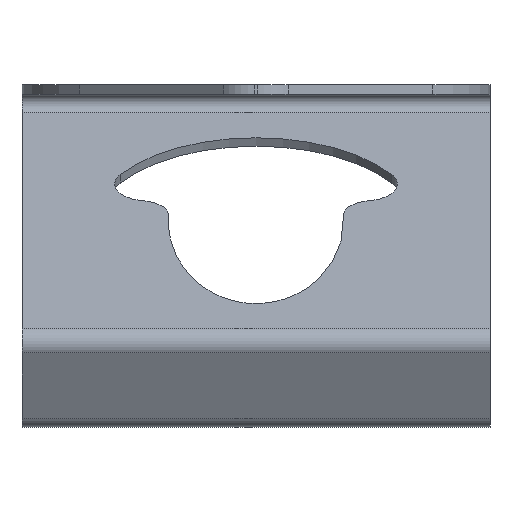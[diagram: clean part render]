
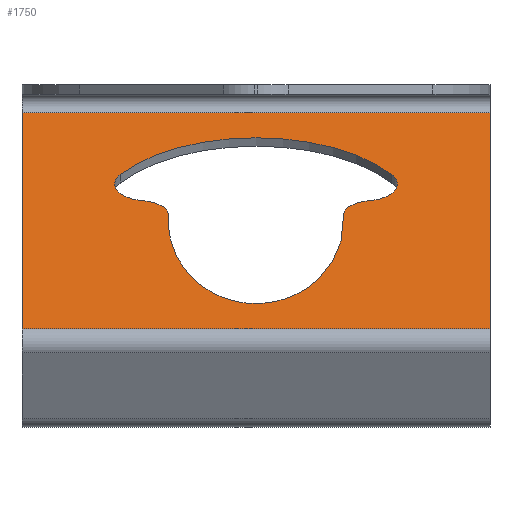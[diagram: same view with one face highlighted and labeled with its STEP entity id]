
A CAD part, front view. The second image highlights one B-rep face of the part: STEP entity #1750.
In plain terms, the highlighted planar face has unit normal (0, -0.5, 0.866).
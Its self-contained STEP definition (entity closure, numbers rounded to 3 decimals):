
#1 = VERTEX_POINT ( 'NONE', #1483 ) ;
#8 = DIRECTION ( 'NONE',  ( 0., 0.866, 0.5 ) ) ;
#15 = CARTESIAN_POINT ( 'NONE',  ( 0., 194.944, -14.33 ) ) ;
#23 = ORIENTED_EDGE ( 'NONE', *, *, #1196, .T. ) ;
#33 = ORIENTED_EDGE ( 'NONE', *, *, #1471, .T. ) ;
#37 = ORIENTED_EDGE ( 'NONE', *, *, #1839, .F. ) ;
#56 = LINE ( 'NONE', #324, #347 ) ;
#58 = DIRECTION ( 'NONE',  ( 0., -0.5, 0.866 ) ) ;
#62 = EDGE_CURVE ( 'NONE', #1920, #1487, #605, .T. ) ;
#65 = ORIENTED_EDGE ( 'NONE', *, *, #757, .F. ) ;
#74 = LINE ( 'NONE', #737, #551 ) ;
#83 = CIRCLE ( 'NONE', #1672, 83.107 ) ;
#158 = EDGE_LOOP ( 'NONE', ( #23, #37, #1687, #358 ) ) ;
#166 = VECTOR ( 'NONE', #303, 1000. ) ;
#247 = DIRECTION ( 'NONE',  ( 0., -0.5, 0.866 ) ) ;
#253 = DIRECTION ( 'NONE',  ( 0., -0.866, -0.5 ) ) ;
#267 = CARTESIAN_POINT ( 'NONE',  ( 147.623, 25.342, -112.25 ) ) ;
#268 = CARTESIAN_POINT ( 'NONE',  ( 0., 2.964, -125.17 ) ) ;
#291 = AXIS2_PLACEMENT_3D ( 'NONE', #910, #921, #8 ) ;
#298 = CARTESIAN_POINT ( 'NONE',  ( 120., 100.593, -68.804 ) ) ;
#303 = DIRECTION ( 'NONE',  ( -1., 0., 0. ) ) ;
#324 = CARTESIAN_POINT ( 'NONE',  ( 240., 2.964, -125.17 ) ) ;
#343 = CARTESIAN_POINT ( 'NONE',  ( 177.645, 116.588, -59.569 ) ) ;
#347 = VECTOR ( 'NONE', #1367, 1000. ) ;
#355 = ORIENTED_EDGE ( 'NONE', *, *, #1485, .T. ) ;
#358 = ORIENTED_EDGE ( 'NONE', *, *, #706, .T. ) ;
#430 = VERTEX_POINT ( 'NONE', #1881 ) ;
#433 = VERTEX_POINT ( 'NONE', #979 ) ;
#436 = EDGE_CURVE ( 'NONE', #1008, #900, #1501, .T. ) ;
#464 = CARTESIAN_POINT ( 'NONE',  ( 65., 131.569, -50.92 ) ) ;
#465 = LINE ( 'NONE', #15, #1885 ) ;
#551 = VECTOR ( 'NONE', #760, 1000. ) ;
#572 = CARTESIAN_POINT ( 'NONE',  ( 73.435, 58.231, -93.262 ) ) ;
#597 = EDGE_CURVE ( 'NONE', #1845, #743, #74, .T. ) ;
#603 = DIRECTION ( 'NONE',  ( 0., -0.866, -0.5 ) ) ;
#605 =( BOUNDED_CURVE ( )  B_SPLINE_CURVE ( 3, ( #880, #1776, #267, #741, #1469, #572, #1626 ),
 .UNSPECIFIED., .F., .T. ) 
 B_SPLINE_CURVE_WITH_KNOTS ( ( 4, 3, 4 ),
 ( 4.653, 6.283, 7.914 ),
 .UNSPECIFIED. ) 
 CURVE ( )  GEOMETRIC_REPRESENTATION_ITEM ( )  RATIONAL_B_SPLINE_CURVE ( ( 1., 0.79, 0.79, 1., 0.79, 0.79, 1. ) ) 
 REPRESENTATION_ITEM ( '' )  );
#609 = DIRECTION ( 'NONE',  ( 0., 0.866, 0.5 ) ) ;
#662 = CARTESIAN_POINT ( 'NONE',  ( 75.08, 103.337, -67.22 ) ) ;
#685 = CARTESIAN_POINT ( 'NONE',  ( 189.671, 139.831, -46.15 ) ) ;
#702 = DIRECTION ( 'NONE',  ( 0., 0.866, 0.5 ) ) ;
#706 = EDGE_CURVE ( 'NONE', #1845, #433, #862, .T. ) ;
#735 = FACE_OUTER_BOUND ( 'NONE', #158, .T. ) ;
#737 = CARTESIAN_POINT ( 'NONE',  ( 240., 194.944, -14.33 ) ) ;
#741 = CARTESIAN_POINT ( 'NONE',  ( 120., 25.342, -112.25 ) ) ;
#743 = VERTEX_POINT ( 'NONE', #1198 ) ;
#757 = EDGE_CURVE ( 'NONE', #1, #430, #1837, .T. ) ;
#760 = DIRECTION ( 'NONE',  ( 0., -0.866, -0.5 ) ) ;
#808 = CARTESIAN_POINT ( 'NONE',  ( 240., 194.944, -14.33 ) ) ;
#810 = DIRECTION ( 'NONE',  ( 0., 0.866, 0.5 ) ) ;
#839 = AXIS2_PLACEMENT_3D ( 'NONE', #1155, #1761, #253 ) ;
#845 = EDGE_LOOP ( 'NONE', ( #65, #1580, #1417, #355, #1232, #33 ) ) ;
#862 = LINE ( 'NONE', #1218, #166 ) ;
#880 = CARTESIAN_POINT ( 'NONE',  ( 164.92, 103.337, -67.22 ) ) ;
#900 = VERTEX_POINT ( 'NONE', #343 ) ;
#910 = CARTESIAN_POINT ( 'NONE',  ( 240., 194.944, -14.33 ) ) ;
#921 = DIRECTION ( 'NONE',  ( 0., 0.5, -0.866 ) ) ;
#925 = DIRECTION ( 'NONE',  ( 0., -0.5, 0.866 ) ) ;
#979 = CARTESIAN_POINT ( 'NONE',  ( 0., 194.944, -14.33 ) ) ;
#1001 = CARTESIAN_POINT ( 'NONE',  ( 60.087, 103.746, -66.983 ) ) ;
#1008 = VERTEX_POINT ( 'NONE', #685 ) ;
#1010 = CARTESIAN_POINT ( 'NONE',  ( 179.913, 103.746, -66.983 ) ) ;
#1100 = AXIS2_PLACEMENT_3D ( 'NONE', #464, #925, #1516 ) ;
#1112 = CARTESIAN_POINT ( 'NONE',  ( 164.92, 103.337, -67.22 ) ) ;
#1128 = AXIS2_PLACEMENT_3D ( 'NONE', #1001, #58, #702 ) ;
#1155 = CARTESIAN_POINT ( 'NONE',  ( 175., 131.569, -50.92 ) ) ;
#1196 = EDGE_CURVE ( 'NONE', #433, #1609, #465, .T. ) ;
#1198 = CARTESIAN_POINT ( 'NONE',  ( 240., 2.964, -125.17 ) ) ;
#1212 = AXIS2_PLACEMENT_3D ( 'NONE', #1010, #247, #810 ) ;
#1218 = CARTESIAN_POINT ( 'NONE',  ( 240., 194.944, -14.33 ) ) ;
#1232 = ORIENTED_EDGE ( 'NONE', *, *, #62, .T. ) ;
#1307 = FACE_BOUND ( 'NONE', #845, .T. ) ;
#1367 = DIRECTION ( 'NONE',  ( -1., 0., 0. ) ) ;
#1417 = ORIENTED_EDGE ( 'NONE', *, *, #436, .T. ) ;
#1469 = CARTESIAN_POINT ( 'NONE',  ( 92.377, 25.342, -112.25 ) ) ;
#1471 = EDGE_CURVE ( 'NONE', #1487, #430, #1520, .T. ) ;
#1483 = CARTESIAN_POINT ( 'NONE',  ( 50.329, 139.831, -46.15 ) ) ;
#1485 = EDGE_CURVE ( 'NONE', #900, #1920, #1786, .T. ) ;
#1487 = VERTEX_POINT ( 'NONE', #662 ) ;
#1490 = PLANE ( 'NONE',  #291 ) ;
#1501 = CIRCLE ( 'NONE', #839, 17.5 ) ;
#1516 = DIRECTION ( 'NONE',  ( 0., -0.866, -0.5 ) ) ;
#1520 = CIRCLE ( 'NONE', #1128, 15. ) ;
#1580 = ORIENTED_EDGE ( 'NONE', *, *, #1682, .T. ) ;
#1609 = VERTEX_POINT ( 'NONE', #268 ) ;
#1626 = CARTESIAN_POINT ( 'NONE',  ( 75.08, 103.337, -67.22 ) ) ;
#1646 = DIRECTION ( 'NONE',  ( 0., 0.5, -0.866 ) ) ;
#1672 = AXIS2_PLACEMENT_3D ( 'NONE', #298, #1646, #609 ) ;
#1682 = EDGE_CURVE ( 'NONE', #1, #1008, #83, .T. ) ;
#1687 = ORIENTED_EDGE ( 'NONE', *, *, #597, .F. ) ;
#1750 = ADVANCED_FACE ( 'NONE', ( #735, #1307 ), #1490, .F. ) ;
#1761 = DIRECTION ( 'NONE',  ( 0., 0.5, -0.866 ) ) ;
#1776 = CARTESIAN_POINT ( 'NONE',  ( 166.565, 58.231, -93.262 ) ) ;
#1786 = CIRCLE ( 'NONE', #1212, 15. ) ;
#1837 = CIRCLE ( 'NONE', #1100, 17.5 ) ;
#1839 = EDGE_CURVE ( 'NONE', #743, #1609, #56, .T. ) ;
#1845 = VERTEX_POINT ( 'NONE', #808 ) ;
#1881 = CARTESIAN_POINT ( 'NONE',  ( 62.355, 116.588, -59.569 ) ) ;
#1885 = VECTOR ( 'NONE', #603, 1000. ) ;
#1920 = VERTEX_POINT ( 'NONE', #1112 ) ;
